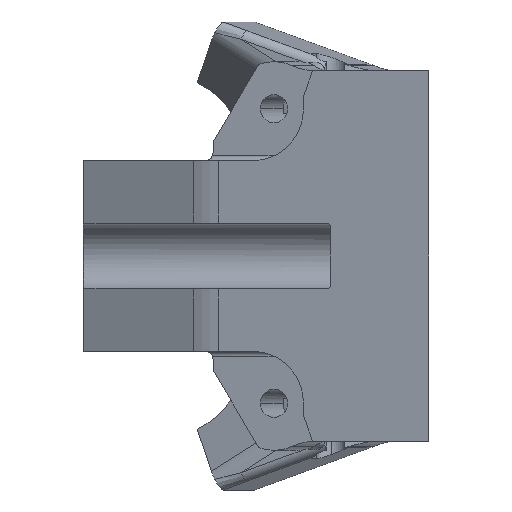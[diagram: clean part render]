
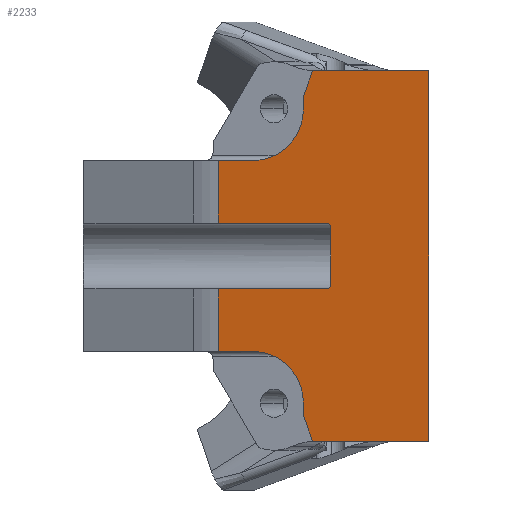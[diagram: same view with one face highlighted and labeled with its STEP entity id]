
A CAD part, left-side view. The second image highlights one B-rep face of the part: STEP entity #2233.
In plain terms, the highlighted planar face has unit normal (-0.966, 0.259, 0).
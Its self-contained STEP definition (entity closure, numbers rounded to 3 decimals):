
#83 = EDGE_CURVE ( 'NONE', #7305, #3277, #3520, .T. ) ;
#102 = VECTOR ( 'NONE', #7537, 1000. ) ;
#316 = DIRECTION ( 'NONE',  ( -0.259, -0.966, 0. ) ) ;
#371 = VERTEX_POINT ( 'NONE', #6552 ) ;
#665 = ORIENTED_EDGE ( 'NONE', *, *, #6743, .T. ) ;
#713 = LINE ( 'NONE', #8372, #1648 ) ;
#755 = CARTESIAN_POINT ( 'NONE',  ( -23.354, 10.399, 3. ) ) ;
#814 = ORIENTED_EDGE ( 'NONE', *, *, #4610, .F. ) ;
#855 = DIRECTION ( 'NONE',  ( 0.259, 0.966, 0. ) ) ;
#976 = LINE ( 'NONE', #10900, #10415 ) ;
#981 = EDGE_CURVE ( 'NONE', #6406, #3202, #4149, .T. ) ;
#1027 = VERTEX_POINT ( 'NONE', #10170 ) ;
#1076 = VECTOR ( 'NONE', #3963, 1000. ) ;
#1153 = CARTESIAN_POINT ( 'NONE',  ( -26.141, 0., 10.15 ) ) ;
#1204 = VERTEX_POINT ( 'NONE', #2080 ) ;
#1274 = DIRECTION ( 'NONE',  ( -0.966, 0.259, 0. ) ) ;
#1312 = EDGE_CURVE ( 'NONE', #1027, #9211, #3845, .T. ) ;
#1342 = CARTESIAN_POINT ( 'NONE',  ( -20.15, 22.357, -10.15 ) ) ;
#1428 = CARTESIAN_POINT ( 'NONE',  ( -20.15, 22.357, 10.15 ) ) ;
#1502 = VECTOR ( 'NONE', #3259, 1000. ) ;
#1648 = VECTOR ( 'NONE', #4813, 1000. ) ;
#1920 = AXIS2_PLACEMENT_3D ( 'NONE', #3072, #4747, #9018 ) ;
#2080 = CARTESIAN_POINT ( 'NONE',  ( -22.837, 12.331, -19.7 ) ) ;
#2147 = CARTESIAN_POINT ( 'NONE',  ( -20.15, 22.357, 3.5 ) ) ;
#2183 = CARTESIAN_POINT ( 'NONE',  ( -21.154, 18.609, 15.65 ) ) ;
#2233 = ADVANCED_FACE ( 'NONE', ( #10111 ), #8229, .F. ) ;
#2235 = LINE ( 'NONE', #9408, #10098 ) ;
#2278 = ORIENTED_EDGE ( 'NONE', *, *, #8069, .T. ) ;
#2454 = CARTESIAN_POINT ( 'NONE',  ( -22.578, 13.297, 19.7 ) ) ;
#2513 = DIRECTION ( 'NONE',  ( 0.966, -0.259, 0. ) ) ;
#2612 = ORIENTED_EDGE ( 'NONE', *, *, #981, .T. ) ;
#2637 = DIRECTION ( 'NONE',  ( 0.259, 0.966, 0. ) ) ;
#2843 = CARTESIAN_POINT ( 'NONE',  ( -26.141, 0., 19.7 ) ) ;
#2893 = EDGE_CURVE ( 'NONE', #371, #3202, #2235, .T. ) ;
#3060 = ORIENTED_EDGE ( 'NONE', *, *, #83, .T. ) ;
#3072 = CARTESIAN_POINT ( 'NONE',  ( -26.141, 0., 19.7 ) ) ;
#3202 = VERTEX_POINT ( 'NONE', #755 ) ;
#3224 = LINE ( 'NONE', #9418, #7071 ) ;
#3235 = LINE ( 'NONE', #2454, #1502 ) ;
#3250 = ORIENTED_EDGE ( 'NONE', *, *, #3638, .T. ) ;
#3259 = DIRECTION ( 'NONE',  ( 0., 0., 1. ) ) ;
#3277 = VERTEX_POINT ( 'NONE', #2147 ) ;
#3368 = ORIENTED_EDGE ( 'NONE', *, *, #5834, .F. ) ;
#3391 = EDGE_CURVE ( 'NONE', #5502, #6220, #8085, .T. ) ;
#3396 = DIRECTION ( 'NONE',  ( 0.966, -0.259, 0. ) ) ;
#3405 = VECTOR ( 'NONE', #2637, 1000. ) ;
#3499 = VERTEX_POINT ( 'NONE', #8757 ) ;
#3520 = LINE ( 'NONE', #7414, #102 ) ;
#3611 = ORIENTED_EDGE ( 'NONE', *, *, #7604, .T. ) ;
#3624 = VECTOR ( 'NONE', #5391, 1000. ) ;
#3638 = EDGE_CURVE ( 'NONE', #1027, #1204, #9004, .T. ) ;
#3845 = LINE ( 'NONE', #9023, #7441 ) ;
#3877 = DIRECTION ( 'NONE',  ( -0.966, 0.259, 0. ) ) ;
#3924 = CARTESIAN_POINT ( 'NONE',  ( -21.154, 18.609, -10.15 ) ) ;
#3963 = DIRECTION ( 'NONE',  ( 0.259, 0.966, 0. ) ) ;
#4099 = CARTESIAN_POINT ( 'NONE',  ( -26.141, 0., 19.7 ) ) ;
#4149 = CIRCLE ( 'NONE', #10724, 0.5 ) ;
#4186 = CARTESIAN_POINT ( 'NONE',  ( -22.837, 12.331, 19.7 ) ) ;
#4218 = DIRECTION ( 'NONE',  ( 0.259, 0.966, 0. ) ) ;
#4241 = ORIENTED_EDGE ( 'NONE', *, *, #1312, .F. ) ;
#4365 = ORIENTED_EDGE ( 'NONE', *, *, #2893, .F. ) ;
#4371 = CARTESIAN_POINT ( 'NONE',  ( -20.15, 22.357, -3.5 ) ) ;
#4498 = DIRECTION ( 'NONE',  ( -0.089, -0.33, -0.94 ) ) ;
#4610 = EDGE_CURVE ( 'NONE', #9211, #5502, #8079, .T. ) ;
#4690 = CARTESIAN_POINT ( 'NONE',  ( -22.578, 13.297, 15.65 ) ) ;
#4747 = DIRECTION ( 'NONE',  ( 0.966, -0.259, 0. ) ) ;
#4813 = DIRECTION ( 'NONE',  ( 0.259, 0.966, 0. ) ) ;
#4850 = VECTOR ( 'NONE', #10089, 1000. ) ;
#4929 = ORIENTED_EDGE ( 'NONE', *, *, #10108, .F. ) ;
#5087 = VERTEX_POINT ( 'NONE', #4690 ) ;
#5098 = LINE ( 'NONE', #7276, #1076 ) ;
#5128 = VERTEX_POINT ( 'NONE', #6495 ) ;
#5256 = DIRECTION ( 'NONE',  ( 0., 0., 1. ) ) ;
#5260 = EDGE_CURVE ( 'NONE', #8410, #6031, #8473, .T. ) ;
#5266 = DIRECTION ( 'NONE',  ( 0., 0., -1. ) ) ;
#5356 = ORIENTED_EDGE ( 'NONE', *, *, #7759, .T. ) ;
#5391 = DIRECTION ( 'NONE',  ( -0.259, -0.966, 0. ) ) ;
#5502 = VERTEX_POINT ( 'NONE', #3924 ) ;
#5611 = EDGE_CURVE ( 'NONE', #371, #5128, #9232, .T. ) ;
#5761 = VECTOR ( 'NONE', #8501, 1000. ) ;
#5809 = EDGE_CURVE ( 'NONE', #3499, #5087, #6436, .T. ) ;
#5834 = EDGE_CURVE ( 'NONE', #7305, #3499, #8056, .T. ) ;
#5952 = CARTESIAN_POINT ( 'NONE',  ( -26.141, 0., -19.7 ) ) ;
#5958 = EDGE_CURVE ( 'NONE', #6406, #3277, #713, .T. ) ;
#5980 = ORIENTED_EDGE ( 'NONE', *, *, #5809, .F. ) ;
#6031 = VERTEX_POINT ( 'NONE', #5952 ) ;
#6062 = CARTESIAN_POINT ( 'NONE',  ( -26.141, 0., 19.7 ) ) ;
#6220 = VERTEX_POINT ( 'NONE', #1342 ) ;
#6406 = VERTEX_POINT ( 'NONE', #9261 ) ;
#6436 = CIRCLE ( 'NONE', #9943, 5.5 ) ;
#6495 = CARTESIAN_POINT ( 'NONE',  ( -23.225, 10.882, -3.5 ) ) ;
#6532 = ORIENTED_EDGE ( 'NONE', *, *, #5611, .T. ) ;
#6552 = CARTESIAN_POINT ( 'NONE',  ( -23.354, 10.399, -3. ) ) ;
#6715 = ORIENTED_EDGE ( 'NONE', *, *, #3391, .F. ) ;
#6743 = EDGE_CURVE ( 'NONE', #1204, #6031, #976, .T. ) ;
#7071 = VECTOR ( 'NONE', #5266, 1000. ) ;
#7276 = CARTESIAN_POINT ( 'NONE',  ( -23.354, 10.399, -3.5 ) ) ;
#7305 = VERTEX_POINT ( 'NONE', #1428 ) ;
#7326 = EDGE_CURVE ( 'NONE', #5087, #7427, #3235, .T. ) ;
#7414 = CARTESIAN_POINT ( 'NONE',  ( -20.15, 22.357, 19.7 ) ) ;
#7416 = AXIS2_PLACEMENT_3D ( 'NONE', #10609, #1274, #8907 ) ;
#7427 = VERTEX_POINT ( 'NONE', #10107 ) ;
#7441 = VECTOR ( 'NONE', #10754, 1000. ) ;
#7537 = DIRECTION ( 'NONE',  ( 0., 0., -1. ) ) ;
#7541 = CARTESIAN_POINT ( 'NONE',  ( -23.225, 10.882, -3. ) ) ;
#7604 = EDGE_CURVE ( 'NONE', #10682, #7427, #8035, .T. ) ;
#7727 = CARTESIAN_POINT ( 'NONE',  ( -26.141, 0., -10.15 ) ) ;
#7759 = EDGE_CURVE ( 'NONE', #9470, #6220, #3224, .T. ) ;
#8035 = LINE ( 'NONE', #4186, #5761 ) ;
#8056 = LINE ( 'NONE', #1153, #3624 ) ;
#8069 = EDGE_CURVE ( 'NONE', #5128, #9470, #5098, .T. ) ;
#8079 = CIRCLE ( 'NONE', #7416, 5.5 ) ;
#8085 = LINE ( 'NONE', #7727, #3405 ) ;
#8229 = PLANE ( 'NONE',  #1920 ) ;
#8313 = AXIS2_PLACEMENT_3D ( 'NONE', #7541, #3396, #855 ) ;
#8314 = DIRECTION ( 'NONE',  ( -0.259, -0.966, 0. ) ) ;
#8372 = CARTESIAN_POINT ( 'NONE',  ( -23.354, 10.399, 3.5 ) ) ;
#8410 = VERTEX_POINT ( 'NONE', #6062 ) ;
#8473 = LINE ( 'NONE', #4099, #4850 ) ;
#8501 = DIRECTION ( 'NONE',  ( 0.089, 0.33, -0.94 ) ) ;
#8502 = CARTESIAN_POINT ( 'NONE',  ( -23.225, 10.882, 3. ) ) ;
#8614 = VECTOR ( 'NONE', #4498, 1000. ) ;
#8750 = CARTESIAN_POINT ( 'NONE',  ( -22.578, 13.297, -16.953 ) ) ;
#8757 = CARTESIAN_POINT ( 'NONE',  ( -21.154, 18.609, 10.15 ) ) ;
#8907 = DIRECTION ( 'NONE',  ( 0.259, 0.966, 0. ) ) ;
#9004 = LINE ( 'NONE', #8750, #8614 ) ;
#9018 = DIRECTION ( 'NONE',  ( 0.259, 0.966, 0. ) ) ;
#9023 = CARTESIAN_POINT ( 'NONE',  ( -22.578, 13.297, 19.7 ) ) ;
#9098 = CARTESIAN_POINT ( 'NONE',  ( -22.578, 13.297, -15.65 ) ) ;
#9211 = VERTEX_POINT ( 'NONE', #9098 ) ;
#9232 = CIRCLE ( 'NONE', #8313, 0.5 ) ;
#9261 = CARTESIAN_POINT ( 'NONE',  ( -23.225, 10.882, 3.5 ) ) ;
#9408 = CARTESIAN_POINT ( 'NONE',  ( -23.354, 10.399, -3.5 ) ) ;
#9418 = CARTESIAN_POINT ( 'NONE',  ( -20.15, 22.357, 19.7 ) ) ;
#9470 = VERTEX_POINT ( 'NONE', #4371 ) ;
#9475 = ORIENTED_EDGE ( 'NONE', *, *, #5958, .F. ) ;
#9575 = DIRECTION ( 'NONE',  ( 0.259, 0.966, 0. ) ) ;
#9664 = CARTESIAN_POINT ( 'NONE',  ( -22.837, 12.331, 19.7 ) ) ;
#9715 = LINE ( 'NONE', #2843, #10635 ) ;
#9859 = ORIENTED_EDGE ( 'NONE', *, *, #5260, .F. ) ;
#9943 = AXIS2_PLACEMENT_3D ( 'NONE', #2183, #3877, #9575 ) ;
#10089 = DIRECTION ( 'NONE',  ( 0., 0., -1. ) ) ;
#10098 = VECTOR ( 'NONE', #5256, 1000. ) ;
#10107 = CARTESIAN_POINT ( 'NONE',  ( -22.578, 13.297, 16.953 ) ) ;
#10108 = EDGE_CURVE ( 'NONE', #10682, #8410, #9715, .T. ) ;
#10111 = FACE_OUTER_BOUND ( 'NONE', #10751, .T. ) ;
#10170 = CARTESIAN_POINT ( 'NONE',  ( -22.578, 13.297, -16.953 ) ) ;
#10415 = VECTOR ( 'NONE', #8314, 1000. ) ;
#10609 = CARTESIAN_POINT ( 'NONE',  ( -21.154, 18.609, -15.65 ) ) ;
#10635 = VECTOR ( 'NONE', #316, 1000. ) ;
#10682 = VERTEX_POINT ( 'NONE', #9664 ) ;
#10724 = AXIS2_PLACEMENT_3D ( 'NONE', #8502, #2513, #4218 ) ;
#10751 = EDGE_LOOP ( 'NONE', ( #3368, #3060, #9475, #2612, #4365, #6532, #2278, #5356, #6715, #814, #4241, #3250, #665, #9859, #4929, #3611, #10803, #5980 ) ) ;
#10754 = DIRECTION ( 'NONE',  ( 0., 0., 1. ) ) ;
#10803 = ORIENTED_EDGE ( 'NONE', *, *, #7326, .F. ) ;
#10900 = CARTESIAN_POINT ( 'NONE',  ( -26.141, 0., -19.7 ) ) ;
